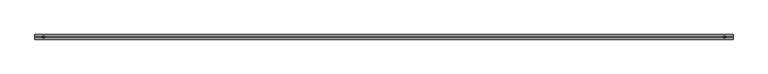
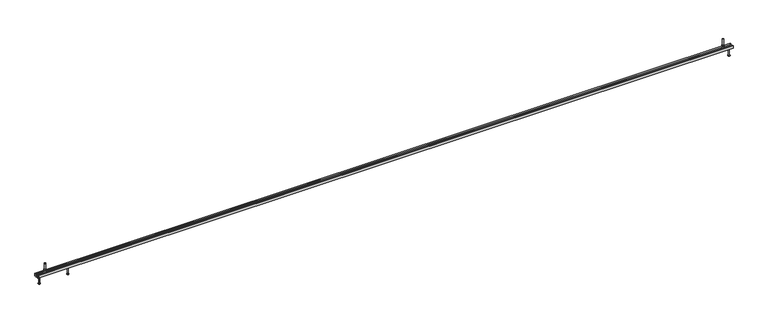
"""IFC4 building model written with IfcOpenShell, lengths in millimetres: fastener geometry, JTA-W JORDAHL® AnchorChannels : JTA-W L=6000 mm."""

from ifc_helpers import new_model, si_unit, point, frame, frame_2d, origin, place, context, project, spatial, polyline, circle_curve, trimmed, segment, composite_curve, outline, extrude, source, transform, mapped, element, save
from ifc_brep_helpers import plane_surface, cylinder_surface, revolved_surface, advanced_brep


def fastener_15134835(model_context):
    return source(origin(), model_context, "Body", "SolidModel", [
        advanced_brep(
        [(272.9166667, 0.0, -22.0), (286.4166667, 0.0, -22.0), (259.4166667, 0.0, -22.0), (264.4166667, 0.0, -90.0), (281.4166667, 0.0, -90.0), (272.9166667, 0.0, -90.0), (264.4166667, 0.0, -88.0), (281.4166667, 0.0, -88.0), (268.4166667, 0.0, -85.6905989), (277.4166667, 0.0, -85.6905989), (268.4166667, 0.0, -24.5), (277.4166667, 0.0, -24.5)],
        [
            (0, 1),
            (1, 2, circle_curve(frame((272.9166667, 0.0, -22.0), z_axis=(0.0, 0.0, 1.0), x_axis=(1.0, 0.0, 0.0)), 13.5)),
            (2, 0),
            (2, 1, circle_curve(frame((272.9166667, 0.0, -22.0), z_axis=(0.0, 0.0, 1.0), x_axis=(1.0, 0.0, 0.0)), 13.5)),
            (3, 4, circle_curve(frame((272.9166667, 0.0, -90.0), z_axis=(0.0, 0.0, -1.0), x_axis=(1.0, 0.0, 0.0)), 8.5)),
            (4, 5),
            (5, 3),
            (4, 3, circle_curve(frame((272.9166667, 0.0, -90.0), z_axis=(0.0, 0.0, -1.0), x_axis=(1.0, 0.0, 0.0)), 8.5)),
            (6, 7, circle_curve(frame((272.9166667, 0.0, -88.0), z_axis=(0.0, 0.0, -1.0), x_axis=(1.0, 0.0, 0.0)), 8.5)),
            (7, 4),
            (3, 6),
            (7, 6, circle_curve(frame((272.9166667, 0.0, -88.0), z_axis=(0.0, 0.0, -1.0), x_axis=(1.0, 0.0, 0.0)), 8.5)),
            (8, 9, circle_curve(frame((272.9166667, 0.0, -85.6905989), z_axis=(0.0, 0.0, -1.0), x_axis=(1.0, 0.0, 0.0)), 4.5)),
            (9, 7),
            (6, 8),
            (9, 8, circle_curve(frame((272.9166667, 0.0, -85.6905989), z_axis=(0.0, 0.0, -1.0), x_axis=(1.0, 0.0, 0.0)), 4.5)),
            (10, 11, circle_curve(frame((272.9166667, 0.0, -24.5), z_axis=(0.0, 0.0, -1.0), x_axis=(1.0, 0.0, 0.0)), 4.5)),
            (11, 9),
            (8, 10),
            (11, 10, circle_curve(frame((272.9166667, 0.0, -24.5), z_axis=(0.0, 0.0, -1.0), x_axis=(1.0, 0.0, 0.0)), 4.5)),
            (1, 11),
            (10, 2),
        ],
        [
            plane_surface(frame((272.9166667, 0.0, -22.0), z_axis=(0.0, 0.0, 1.0), x_axis=(1.0, 0.0, 0.0))),
            plane_surface(frame((272.9166667, 0.0, -90.0), z_axis=(0.0, 0.0, -1.0), x_axis=(1.0, 0.0, 0.0))),
            cylinder_surface(frame((272.9166667, 0.0, 2282.3150031), z_axis=(0.0, 0.0, 1.0), x_axis=(1.0, 0.0, 0.0)), 8.5),
            revolved_surface(polyline([(281.4166667, 0.0, -88.0), (277.4166667, 0.0, -85.6905989)]), (272.9166667, 0.0, 2282.3150031), (0.0, 0.0, 1.0)),
            cylinder_surface(frame((272.9166667, 0.0, 2282.3150031), z_axis=(0.0, 0.0, 1.0), x_axis=(1.0, 0.0, 0.0)), 4.5),
            revolved_surface(polyline([(277.4166667, 0.0, -24.5), (286.4166667, 0.0, -22.0)]), (272.9166667, 0.0, 2282.3150031), (0.0, 0.0, 1.0)),
        ],
        [
            (0, [[1, 2, 3]]),
            (0, [[-3, 4, -1]]),
            (1, [[5, 6, 7]]),
            (1, [[8, -7, -6]]),
            (2, [[9, 10, -5, 11]]),
            (2, [[12, -11, -8, -10]]),
            (3, [[13, 14, -9, 15]]),
            (3, [[16, -15, -12, -14]]),
            (4, [[17, 18, -13, 19]]),
            (4, [[20, -19, -16, -18]]),
            (5, [[-2, 21, -17, 22]]),
            (5, [[-4, -22, -20, -21]]),
        ],
    ),
        extrude(outline(polyline([(5925.0, 9.2376043), (5933.0, 4.6188022), (5933.0, -4.6188022), (5925.0, -9.2376043), (5917.0, -4.6188022), (5917.0, 4.6188022), (5925.0, 9.2376043)]), holes=[composite_curve([segment(trimmed(circle_curve(frame_2d((5925.0, 0.0)), 5.0), [point((5920.0, 0.0))], [point((5930.0, 0.0))], True, "CARTESIAN"), True, "CONTINUOUS"), segment(trimmed(circle_curve(frame_2d((5925.0, 0.0)), 5.0), [point((5930.0, 0.0))], [point((5920.0, 0.0))], True, "CARTESIAN"), True, "CONTINUOUS")], self_intersect=False)]), frame((0.0, 0.0, 17.0), z_axis=(0.0, 0.0, 1.0), x_axis=(1.0, 0.0, 0.0)), (0.0, 0.0, 1.0), 8.4),
        extrude(outline(composite_curve([segment(trimmed(circle_curve(frame_2d((5925.0, 0.0)), 10.0), [point((5915.0, 0.0))], [point((5935.0, 0.0))], False, "CARTESIAN"), True, "CONTINUOUS"), segment(trimmed(circle_curve(frame_2d((5925.0, 0.0)), 10.0), [point((5935.0, 0.0))], [point((5915.0, 0.0))], False, "CARTESIAN"), True, "CONTINUOUS")], self_intersect=False), holes=[composite_curve([segment(trimmed(circle_curve(frame_2d((5925.0, 0.0)), 5.25), [point((5919.75, 0.0))], [point((5930.25, 0.0))], True, "CARTESIAN"), True, "CONTINUOUS"), segment(trimmed(circle_curve(frame_2d((5925.0, 0.0)), 5.25), [point((5930.25, 0.0))], [point((5919.75, 0.0))], True, "CARTESIAN"), True, "CONTINUOUS")], self_intersect=False)]), frame((0.0, 0.0, 15.0), z_axis=(0.0, 0.0, 1.0), x_axis=(1.0, 0.0, 0.0)), (0.0, 0.0, 1.0), 2.0),
        extrude(outline(polyline([(75.0, 9.2376043), (83.0, 4.6188022), (83.0, -4.6188022), (75.0, -9.2376043), (67.0, -4.6188022), (67.0, 4.6188022), (75.0, 9.2376043)]), holes=[composite_curve([segment(trimmed(circle_curve(frame_2d((75.0, 0.0)), 5.0), [point((70.0, 0.0))], [point((80.0, 0.0))], True, "CARTESIAN"), True, "CONTINUOUS"), segment(trimmed(circle_curve(frame_2d((75.0, 0.0)), 5.0), [point((80.0, 0.0))], [point((70.0, 0.0))], True, "CARTESIAN"), True, "CONTINUOUS")], self_intersect=False)]), frame((0.0, 0.0, 17.0), z_axis=(0.0, 0.0, 1.0), x_axis=(1.0, 0.0, 0.0)), (0.0, 0.0, 1.0), 8.4),
        extrude(outline(composite_curve([segment(trimmed(circle_curve(frame_2d((75.0, 0.0)), 10.0), [point((65.0, 0.0))], [point((85.0, 0.0))], False, "CARTESIAN"), True, "CONTINUOUS"), segment(trimmed(circle_curve(frame_2d((75.0, 0.0)), 10.0), [point((85.0, 0.0))], [point((65.0, 0.0))], False, "CARTESIAN"), True, "CONTINUOUS")], self_intersect=False), holes=[composite_curve([segment(trimmed(circle_curve(frame_2d((75.0, 0.0)), 5.25), [point((69.75, 0.0))], [point((80.25, 0.0))], True, "CARTESIAN"), True, "CONTINUOUS"), segment(trimmed(circle_curve(frame_2d((75.0, 0.0)), 5.25), [point((80.25, 0.0))], [point((69.75, 0.0))], True, "CARTESIAN"), True, "CONTINUOUS")], self_intersect=False)]), frame((0.0, 0.0, 15.0), z_axis=(0.0, 0.0, 1.0), x_axis=(1.0, 0.0, 0.0)), (0.0, 0.0, 1.0), 2.0),
        advanced_brep(
        [(5932.0, 16.25, -3.0), (5932.0, -16.25, -3.0), (5932.0, -16.25, -11.0), (5932.0, 16.25, -11.0), (5918.0, 16.25, -3.0), (5918.0, 16.25, -11.0), (5918.0, -16.25, -11.0), (5918.0, -16.25, -3.0), (5930.0, 0.0, -3.0), (5920.0, 0.0, -3.0), (5920.0, 0.0, 77.0), (5930.0, 0.0, 77.0)],
        [
            (0, 1),
            (1, 2),
            (2, 3),
            (3, 0),
            (4, 5),
            (5, 6),
            (6, 7),
            (7, 4),
            (0, 4),
            (7, 1),
            (8, 9, circle_curve(frame((5925.0, 0.0, -3.0), z_axis=(0.0, 0.0, -1.0), x_axis=(1.0, 0.0, 0.0)), 5.0)),
            (9, 8, circle_curve(frame((5925.0, 0.0, -3.0), z_axis=(0.0, 0.0, -1.0), x_axis=(1.0, 0.0, 0.0)), 5.0)),
            (6, 2),
            (5, 3),
            (10, 11, circle_curve(frame((5925.0, 0.0, 77.0), z_axis=(0.0, 0.0, 1.0), x_axis=(1.0, 0.0, 0.0)), 5.0)),
            (11, 10, circle_curve(frame((5925.0, 0.0, 77.0), z_axis=(0.0, 0.0, 1.0), x_axis=(1.0, 0.0, 0.0)), 5.0)),
            (10, 9),
            (8, 11),
        ],
        [
            plane_surface(frame((5932.0, -16.25, -3.0), z_axis=(1.0, 0.0, 0.0), x_axis=(0.0, -1.0, 0.0))),
            plane_surface(frame((5918.0, -16.25, -3.0), z_axis=(-1.0, 0.0, 0.0), x_axis=(0.0, 1.0, 0.0))),
            plane_surface(frame((5932.0, 16.25, -3.0), z_axis=(0.0, 0.0, 1.0), x_axis=(-1.0, 0.0, 0.0))),
            plane_surface(frame((5932.0, -16.25, -3.0), z_axis=(0.0, -1.0, 0.0), x_axis=(-1.0, 0.0, 0.0))),
            plane_surface(frame((5932.0, -16.25, -11.0), z_axis=(0.0, 0.0, -1.0), x_axis=(-1.0, 0.0, 0.0))),
            plane_surface(frame((5932.0, 16.25, -11.0), z_axis=(0.0, 1.0, 0.0), x_axis=(-1.0, 0.0, 0.0))),
            plane_surface(frame((5930.0, 0.0, 77.0), z_axis=(0.0, 0.0, 1.0), x_axis=(0.0, 1.0, 0.0))),
            cylinder_surface(frame((5925.0, 0.0, -3.0), z_axis=(0.0, 0.0, 1.0), x_axis=(1.0, 0.0, 0.0)), 5.0),
        ],
        [
            (0, [[1, 2, 3, 4]]),
            (1, [[5, 6, 7, 8]]),
            (2, [[-1, 9, -8, 10], [11, 12]]),
            (3, [[-2, -10, -7, 13]]),
            (4, [[-3, -13, -6, 14]]),
            (5, [[-4, -14, -5, -9]]),
            (6, [[15, 16]]),
            (7, [[-15, 17, -11, 18]]),
            (7, [[-16, -18, -12, -17]]),
        ],
    ),
        advanced_brep(
        [(82.0, 16.25, -3.0), (82.0, -16.25, -3.0), (82.0, -16.25, -11.0), (82.0, 16.25, -11.0), (68.0, 16.25, -3.0), (68.0, 16.25, -11.0), (68.0, -16.25, -11.0), (68.0, -16.25, -3.0), (80.0, 0.0, -3.0), (70.0, 0.0, -3.0), (70.0, 0.0, 77.0), (80.0, 0.0, 77.0)],
        [
            (0, 1),
            (1, 2),
            (2, 3),
            (3, 0),
            (4, 5),
            (5, 6),
            (6, 7),
            (7, 4),
            (0, 4),
            (7, 1),
            (8, 9, circle_curve(frame((75.0, 0.0, -3.0), z_axis=(0.0, 0.0, -1.0), x_axis=(1.0, 0.0, 0.0)), 5.0)),
            (9, 8, circle_curve(frame((75.0, 0.0, -3.0), z_axis=(0.0, 0.0, -1.0), x_axis=(1.0, 0.0, 0.0)), 5.0)),
            (6, 2),
            (5, 3),
            (10, 11, circle_curve(frame((75.0, 0.0, 77.0), z_axis=(0.0, 0.0, 1.0), x_axis=(1.0, 0.0, 0.0)), 5.0)),
            (11, 10, circle_curve(frame((75.0, 0.0, 77.0), z_axis=(0.0, 0.0, 1.0), x_axis=(1.0, 0.0, 0.0)), 5.0)),
            (10, 9),
            (8, 11),
        ],
        [
            plane_surface(frame((82.0, -16.25, -3.0), z_axis=(1.0, 0.0, 0.0), x_axis=(0.0, -1.0, 0.0))),
            plane_surface(frame((68.0, -16.25, -3.0), z_axis=(-1.0, 0.0, 0.0), x_axis=(0.0, 1.0, 0.0))),
            plane_surface(frame((82.0, 16.25, -3.0), z_axis=(0.0, 0.0, 1.0), x_axis=(-1.0, 0.0, 0.0))),
            plane_surface(frame((82.0, -16.25, -3.0), z_axis=(0.0, -1.0, 0.0), x_axis=(-1.0, 0.0, 0.0))),
            plane_surface(frame((82.0, -16.25, -11.0), z_axis=(0.0, 0.0, -1.0), x_axis=(-1.0, 0.0, 0.0))),
            plane_surface(frame((82.0, 16.25, -11.0), z_axis=(0.0, 1.0, 0.0), x_axis=(-1.0, 0.0, 0.0))),
            plane_surface(frame((80.0, 0.0, 77.0), z_axis=(0.0, 0.0, 1.0), x_axis=(0.0, 1.0, 0.0))),
            cylinder_surface(frame((75.0, 0.0, -3.0), z_axis=(0.0, 0.0, 1.0), x_axis=(1.0, 0.0, 0.0)), 5.0),
        ],
        [
            (0, [[1, 2, 3, 4]]),
            (1, [[5, 6, 7, 8]]),
            (2, [[-1, 9, -8, 10], [11, 12]]),
            (3, [[-2, -10, -7, 13]]),
            (4, [[-3, -13, -6, 14]]),
            (5, [[-4, -14, -5, -9]]),
            (6, [[15, 16]]),
            (7, [[-15, 17, -11, 18]]),
            (7, [[-16, -18, -12, -17]]),
        ],
    ),
        advanced_brep(
        [(5975.0, 0.0, -22.0), (5988.5, 0.0, -22.0), (5961.5, 0.0, -22.0), (5966.5, 0.0, -90.0), (5983.5, 0.0, -90.0), (5975.0, 0.0, -90.0), (5966.5, 0.0, -88.0), (5983.5, 0.0, -88.0), (5970.5, 0.0, -85.6905989), (5979.5, 0.0, -85.6905989), (5970.5, 0.0, -24.5), (5979.5, 0.0, -24.5)],
        [
            (0, 1),
            (1, 2, circle_curve(frame((5975.0, 0.0, -22.0), z_axis=(0.0, 0.0, 1.0), x_axis=(1.0, 0.0, 0.0)), 13.5)),
            (2, 0),
            (2, 1, circle_curve(frame((5975.0, 0.0, -22.0), z_axis=(0.0, 0.0, 1.0), x_axis=(1.0, 0.0, 0.0)), 13.5)),
            (3, 4, circle_curve(frame((5975.0, 0.0, -90.0), z_axis=(0.0, 0.0, -1.0), x_axis=(1.0, 0.0, 0.0)), 8.5)),
            (4, 5),
            (5, 3),
            (4, 3, circle_curve(frame((5975.0, 0.0, -90.0), z_axis=(0.0, 0.0, -1.0), x_axis=(1.0, 0.0, 0.0)), 8.5)),
            (6, 7, circle_curve(frame((5975.0, 0.0, -88.0), z_axis=(0.0, 0.0, -1.0), x_axis=(1.0, 0.0, 0.0)), 8.5)),
            (7, 4),
            (3, 6),
            (7, 6, circle_curve(frame((5975.0, 0.0, -88.0), z_axis=(0.0, 0.0, -1.0), x_axis=(1.0, 0.0, 0.0)), 8.5)),
            (8, 9, circle_curve(frame((5975.0, 0.0, -85.6905989), z_axis=(0.0, 0.0, -1.0), x_axis=(1.0, 0.0, 0.0)), 4.5)),
            (9, 7),
            (6, 8),
            (9, 8, circle_curve(frame((5975.0, 0.0, -85.6905989), z_axis=(0.0, 0.0, -1.0), x_axis=(1.0, 0.0, 0.0)), 4.5)),
            (10, 11, circle_curve(frame((5975.0, 0.0, -24.5), z_axis=(0.0, 0.0, -1.0), x_axis=(1.0, 0.0, 0.0)), 4.5)),
            (11, 9),
            (8, 10),
            (11, 10, circle_curve(frame((5975.0, 0.0, -24.5), z_axis=(0.0, 0.0, -1.0), x_axis=(1.0, 0.0, 0.0)), 4.5)),
            (1, 11),
            (10, 2),
        ],
        [
            plane_surface(frame((5975.0, 0.0, -22.0), z_axis=(0.0, 0.0, 1.0), x_axis=(1.0, 0.0, 0.0))),
            plane_surface(frame((5975.0, 0.0, -90.0), z_axis=(0.0, 0.0, -1.0), x_axis=(1.0, 0.0, 0.0))),
            cylinder_surface(frame((5975.0, 0.0, 2282.3150031), z_axis=(0.0, 0.0, 1.0), x_axis=(1.0, 0.0, 0.0)), 8.5),
            revolved_surface(polyline([(5983.5, 0.0, -88.0), (5979.5, 0.0, -85.6905989)]), (5975.0, 0.0, 2282.3150031), (0.0, 0.0, 1.0)),
            cylinder_surface(frame((5975.0, 0.0, 2282.3150031), z_axis=(0.0, 0.0, 1.0), x_axis=(1.0, 0.0, 0.0)), 4.5),
            revolved_surface(polyline([(5979.5, 0.0, -24.5), (5988.5, 0.0, -22.0)]), (5975.0, 0.0, 2282.3150031), (0.0, 0.0, 1.0)),
        ],
        [
            (0, [[1, 2, 3]]),
            (0, [[-3, 4, -1]]),
            (1, [[5, 6, 7]]),
            (1, [[8, -7, -6]]),
            (2, [[9, 10, -5, 11]]),
            (2, [[12, -11, -8, -10]]),
            (3, [[13, 14, -9, 15]]),
            (3, [[16, -15, -12, -14]]),
            (4, [[17, 18, -13, 19]]),
            (4, [[20, -19, -16, -18]]),
            (5, [[-2, 21, -17, 22]]),
            (5, [[-4, -22, -20, -21]]),
        ],
    ),
        advanced_brep(
        [(25.0, 0.0, -22.0), (38.5, 0.0, -22.0), (11.5, 0.0, -22.0), (16.5, 0.0, -90.0), (33.5, 0.0, -90.0), (25.0, 0.0, -90.0), (16.5, 0.0, -88.0), (33.5, 0.0, -88.0), (20.5, 0.0, -85.6905989), (29.5, 0.0, -85.6905989), (20.5, 0.0, -24.5), (29.5, 0.0, -24.5)],
        [
            (0, 1),
            (1, 2, circle_curve(frame((25.0, 0.0, -22.0), z_axis=(0.0, 0.0, 1.0), x_axis=(1.0, 0.0, 0.0)), 13.5)),
            (2, 0),
            (2, 1, circle_curve(frame((25.0, 0.0, -22.0), z_axis=(0.0, 0.0, 1.0), x_axis=(1.0, 0.0, 0.0)), 13.5)),
            (3, 4, circle_curve(frame((25.0, 0.0, -90.0), z_axis=(0.0, 0.0, -1.0), x_axis=(1.0, 0.0, 0.0)), 8.5)),
            (4, 5),
            (5, 3),
            (4, 3, circle_curve(frame((25.0, 0.0, -90.0), z_axis=(0.0, 0.0, -1.0), x_axis=(1.0, 0.0, 0.0)), 8.5)),
            (6, 7, circle_curve(frame((25.0, 0.0, -88.0), z_axis=(0.0, 0.0, -1.0), x_axis=(1.0, 0.0, 0.0)), 8.5)),
            (7, 4),
            (3, 6),
            (7, 6, circle_curve(frame((25.0, 0.0, -88.0), z_axis=(0.0, 0.0, -1.0), x_axis=(1.0, 0.0, 0.0)), 8.5)),
            (8, 9, circle_curve(frame((25.0, 0.0, -85.6905989), z_axis=(0.0, 0.0, -1.0), x_axis=(1.0, 0.0, 0.0)), 4.5)),
            (9, 7),
            (6, 8),
            (9, 8, circle_curve(frame((25.0, 0.0, -85.6905989), z_axis=(0.0, 0.0, -1.0), x_axis=(1.0, 0.0, 0.0)), 4.5)),
            (10, 11, circle_curve(frame((25.0, 0.0, -24.5), z_axis=(0.0, 0.0, -1.0), x_axis=(1.0, 0.0, 0.0)), 4.5)),
            (11, 9),
            (8, 10),
            (11, 10, circle_curve(frame((25.0, 0.0, -24.5), z_axis=(0.0, 0.0, -1.0), x_axis=(1.0, 0.0, 0.0)), 4.5)),
            (1, 11),
            (10, 2),
        ],
        [
            plane_surface(frame((25.0, 0.0, -22.0), z_axis=(0.0, 0.0, 1.0), x_axis=(1.0, 0.0, 0.0))),
            plane_surface(frame((25.0, 0.0, -90.0), z_axis=(0.0, 0.0, -1.0), x_axis=(1.0, 0.0, 0.0))),
            cylinder_surface(frame((25.0, 0.0, 2282.3150031), z_axis=(0.0, 0.0, 1.0), x_axis=(1.0, 0.0, 0.0)), 8.5),
            revolved_surface(polyline([(33.5, 0.0, -88.0), (29.5, 0.0, -85.6905989)]), (25.0, 0.0, 2282.3150031), (0.0, 0.0, 1.0)),
            cylinder_surface(frame((25.0, 0.0, 2282.3150031), z_axis=(0.0, 0.0, 1.0), x_axis=(1.0, 0.0, 0.0)), 4.5),
            revolved_surface(polyline([(29.5, 0.0, -24.5), (38.5, 0.0, -22.0)]), (25.0, 0.0, 2282.3150031), (0.0, 0.0, 1.0)),
        ],
        [
            (0, [[1, 2, 3]]),
            (0, [[-3, 4, -1]]),
            (1, [[5, 6, 7]]),
            (1, [[8, -7, -6]]),
            (2, [[9, 10, -5, 11]]),
            (2, [[12, -11, -8, -10]]),
            (3, [[13, 14, -9, 15]]),
            (3, [[16, -15, -12, -14]]),
            (4, [[17, 18, -13, 19]]),
            (4, [[20, -19, -16, -18]]),
            (5, [[-2, 21, -17, 22]]),
            (5, [[-4, -22, -20, -21]]),
        ],
    ),
        extrude(outline(polyline([(19.75, 0.0), (19.75, -22.0), (-19.75, -22.0), (-19.75, 0.0), (-9.0, 0.0), (-9.0, -3.0), (-17.25, -3.0), (-17.25, -19.5), (17.25, -19.5), (17.25, -3.0), (9.0, -3.0), (9.0, 0.0), (19.75, 0.0)])), frame((0.0, 0.0, 0.0), z_axis=(1.0, 0.0, 0.0), x_axis=(0.0, 1.0, 0.0)), (0.0, 0.0, 1.0), 6000.0),
    ])


if __name__ == "__main__":
    model = new_model("IFC4")
    model_context = context("Model", 3, world=origin())
    ifc_project = project(units=[si_unit("LENGTHUNIT", "METRE", prefix="MILLI")], contexts=[model_context])
    site = spatial("IfcSite", under=ifc_project)
    building = spatial("IfcBuilding", under=site)
    placement = place(None, origin())
    fastener_shape = fastener_15134835(model_context)
    element("IfcFastener", 1, ObjectType="JTA-W JORDAHL® AnchorChannels : JTA-W L=6000 mm", at=placement, inside=building, context=model_context, shape_type="MappedRepresentation", body=[
        mapped(fastener_shape, transform((0.0, 0.0, 0.0), x_axis=(1.0, 0.0, 0.0), y_axis=(0.0, 1.0, 0.0), z_axis=(0.0, 0.0, 1.0))),
    ])
    save(model, "model.ifc")
